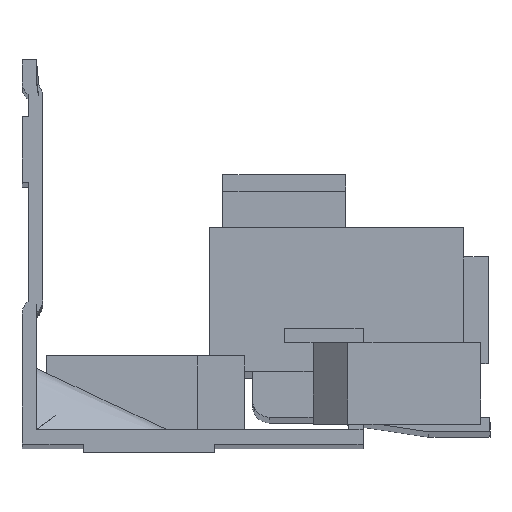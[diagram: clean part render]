
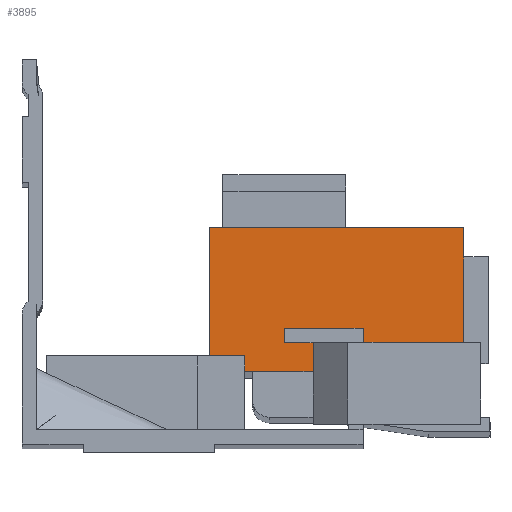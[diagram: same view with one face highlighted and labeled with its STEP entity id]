
A CAD part, front view. The second image highlights one B-rep face of the part: STEP entity #3895.
In plain terms, the highlighted planar face has unit normal (0, -1, 0).
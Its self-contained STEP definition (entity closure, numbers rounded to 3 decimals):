
#180 = LINE ( 'NONE', #2556, #181 ) ;
#181 = VECTOR ( 'NONE', #2557, 1000. ) ;
#488 = LINE ( 'NONE', #916, #489 ) ;
#489 = VECTOR ( 'NONE', #917, 1000. ) ;
#490 = LINE ( 'NONE', #918, #491 ) ;
#491 = VECTOR ( 'NONE', #919, 1000. ) ;
#492 = LINE ( 'NONE', #920, #493 ) ;
#493 = VECTOR ( 'NONE', #921, 1000. ) ;
#494 = LINE ( 'NONE', #922, #495 ) ;
#495 = VECTOR ( 'NONE', #923, 1000. ) ;
#496 = LINE ( 'NONE', #924, #497 ) ;
#497 = VECTOR ( 'NONE', #925, 1000. ) ;
#498 = LINE ( 'NONE', #926, #499 ) ;
#499 = VECTOR ( 'NONE', #927, 1000. ) ;
#500 = LINE ( 'NONE', #928, #501 ) ;
#501 = VECTOR ( 'NONE', #929, 1000. ) ;
#502 = LINE ( 'NONE', #930, #503 ) ;
#503 = VECTOR ( 'NONE', #931, 1000. ) ;
#516 = LINE ( 'NONE', #944, #517 ) ;
#517 = VECTOR ( 'NONE', #945, 1000. ) ;
#560 = LINE ( 'NONE', #988, #561 ) ;
#561 = VECTOR ( 'NONE', #989, 1000. ) ;
#574 = LINE ( 'NONE', #1002, #575 ) ;
#575 = VECTOR ( 'NONE', #1003, 1000. ) ;
#916 = CARTESIAN_POINT ( 'NONE',  ( 27.15, -20., -27.058 ) ) ;
#917 = DIRECTION ( 'NONE',  ( 0., 0., 1. ) ) ;
#918 = CARTESIAN_POINT ( 'NONE',  ( 49.9, -20., -25.181 ) ) ;
#919 = DIRECTION ( 'NONE',  ( -1., 0., 0. ) ) ;
#920 = CARTESIAN_POINT ( 'NONE',  ( 22.9, -20., -27.058 ) ) ;
#921 = DIRECTION ( 'NONE',  ( 0., 0., 1. ) ) ;
#922 = CARTESIAN_POINT ( 'NONE',  ( 41.6, -20., -21.858 ) ) ;
#923 = DIRECTION ( 'NONE',  ( 1., 0., 0. ) ) ;
#924 = CARTESIAN_POINT ( 'NONE',  ( 32., -20., -21.831 ) ) ;
#925 = DIRECTION ( 'NONE',  ( 0., 0., 1. ) ) ;
#926 = CARTESIAN_POINT ( 'NONE',  ( 32., -20., -23.608 ) ) ;
#927 = DIRECTION ( 'NONE',  ( -1., 0., 0. ) ) ;
#928 = CARTESIAN_POINT ( 'NONE',  ( 35.5, -20., -27.058 ) ) ;
#929 = DIRECTION ( 'NONE',  ( 0., 0., -1. ) ) ;
#930 = CARTESIAN_POINT ( 'NONE',  ( 49.9, -20., -27.058 ) ) ;
#931 = DIRECTION ( 'NONE',  ( -1., 0., 0. ) ) ;
#944 = CARTESIAN_POINT ( 'NONE',  ( 41.6, -20., -35.931 ) ) ;
#945 = DIRECTION ( 'NONE',  ( 0., 0., -1. ) ) ;
#988 = CARTESIAN_POINT ( 'NONE',  ( 49.9, -20., -23.558 ) ) ;
#989 = DIRECTION ( 'NONE',  ( 1., 0., 0. ) ) ;
#1002 = CARTESIAN_POINT ( 'NONE',  ( 53.9, -20., -29.558 ) ) ;
#1003 = DIRECTION ( 'NONE',  ( 0., 0., -1. ) ) ;
#1009 = CARTESIAN_POINT ( 'NONE',  ( 53.9, -20., -23.558 ) ) ;
#1017 = CARTESIAN_POINT ( 'NONE',  ( 35.5, -20., -23.608 ) ) ;
#1045 = CARTESIAN_POINT ( 'NONE',  ( 32., -20., -23.608 ) ) ;
#1064 = CARTESIAN_POINT ( 'NONE',  ( 27.15, -20., -25.181 ) ) ;
#1104 = CARTESIAN_POINT ( 'NONE',  ( 27.15, -20., -27.058 ) ) ;
#1120 = CARTESIAN_POINT ( 'NONE',  ( 22.9, -20., -9.558 ) ) ;
#1131 = CARTESIAN_POINT ( 'NONE',  ( 22.9, -20., -25.181 ) ) ;
#1138 = CARTESIAN_POINT ( 'NONE',  ( 41.6, -20., -23.558 ) ) ;
#1153 = CARTESIAN_POINT ( 'NONE',  ( 35.5, -20., -27.058 ) ) ;
#1213 = CARTESIAN_POINT ( 'NONE',  ( 41.6, -20., -21.858 ) ) ;
#1223 = CARTESIAN_POINT ( 'NONE',  ( 32., -20., -21.858 ) ) ;
#1257 = CARTESIAN_POINT ( 'NONE',  ( 53.9, -20., -9.558 ) ) ;
#1438 = PLANE ( 'NONE',  #4393 ) ;
#1439 = CARTESIAN_POINT ( 'NONE',  ( 49.9, -20., -27.058 ) ) ;
#1440 = DIRECTION ( 'NONE',  ( 0., 1., 0. ) ) ;
#1441 = DIRECTION ( 'NONE',  ( 1., 0., 0. ) ) ;
#2556 = CARTESIAN_POINT ( 'NONE',  ( 53.9, -20., -9.558 ) ) ;
#2557 = DIRECTION ( 'NONE',  ( 1., 0., 0. ) ) ;
#3364 = ORIENTED_EDGE ( 'NONE', *, *, #4312, .F. ) ;
#3365 = ORIENTED_EDGE ( 'NONE', *, *, #4313, .F. ) ;
#3366 = ORIENTED_EDGE ( 'NONE', *, *, #4314, .F. ) ;
#3367 = ORIENTED_EDGE ( 'NONE', *, *, #4131, .F. ) ;
#3368 = ORIENTED_EDGE ( 'NONE', *, *, #4355, .F. ) ;
#3369 = ORIENTED_EDGE ( 'NONE', *, *, #4348, .T. ) ;
#3370 = ORIENTED_EDGE ( 'NONE', *, *, #4326, .T. ) ;
#3371 = ORIENTED_EDGE ( 'NONE', *, *, #4315, .T. ) ;
#3372 = ORIENTED_EDGE ( 'NONE', *, *, #4316, .T. ) ;
#3373 = ORIENTED_EDGE ( 'NONE', *, *, #4317, .T. ) ;
#3374 = ORIENTED_EDGE ( 'NONE', *, *, #4318, .F. ) ;
#3375 = ORIENTED_EDGE ( 'NONE', *, *, #4319, .F. ) ;
#3518 = EDGE_LOOP ( 'NONE', ( #3375, #3374, #3373, #3372, #3371, #3370, #3369, #3368, #3367, #3366, #3365, #3364 ) ) ;
#3641 = FACE_OUTER_BOUND ( 'NONE', #3518, .T. ) ;
#3895 = ADVANCED_FACE ( 'NONE', ( #3641 ), #1438, .F. ) ;
#4131 = EDGE_CURVE ( 'NONE', #4669, #4806, #180, .T. ) ;
#4312 = EDGE_CURVE ( 'NONE', #4653, #4613, #488, .T. ) ;
#4313 = EDGE_CURVE ( 'NONE', #4613, #4680, #490, .T. ) ;
#4314 = EDGE_CURVE ( 'NONE', #4680, #4669, #492, .T. ) ;
#4315 = EDGE_CURVE ( 'NONE', #4772, #4762, #494, .T. ) ;
#4316 = EDGE_CURVE ( 'NONE', #4594, #4772, #496, .T. ) ;
#4317 = EDGE_CURVE ( 'NONE', #4566, #4594, #498, .T. ) ;
#4318 = EDGE_CURVE ( 'NONE', #4566, #4702, #500, .T. ) ;
#4319 = EDGE_CURVE ( 'NONE', #4702, #4653, #502, .T. ) ;
#4326 = EDGE_CURVE ( 'NONE', #4762, #4687, #516, .T. ) ;
#4348 = EDGE_CURVE ( 'NONE', #4687, #4558, #560, .T. ) ;
#4355 = EDGE_CURVE ( 'NONE', #4806, #4558, #574, .T. ) ;
#4393 = AXIS2_PLACEMENT_3D ( 'NONE', #1439, #1440, #1441 ) ;
#4558 = VERTEX_POINT ( 'NONE', #1009 ) ;
#4566 = VERTEX_POINT ( 'NONE', #1017 ) ;
#4594 = VERTEX_POINT ( 'NONE', #1045 ) ;
#4613 = VERTEX_POINT ( 'NONE', #1064 ) ;
#4653 = VERTEX_POINT ( 'NONE', #1104 ) ;
#4669 = VERTEX_POINT ( 'NONE', #1120 ) ;
#4680 = VERTEX_POINT ( 'NONE', #1131 ) ;
#4687 = VERTEX_POINT ( 'NONE', #1138 ) ;
#4702 = VERTEX_POINT ( 'NONE', #1153 ) ;
#4762 = VERTEX_POINT ( 'NONE', #1213 ) ;
#4772 = VERTEX_POINT ( 'NONE', #1223 ) ;
#4806 = VERTEX_POINT ( 'NONE', #1257 ) ;
